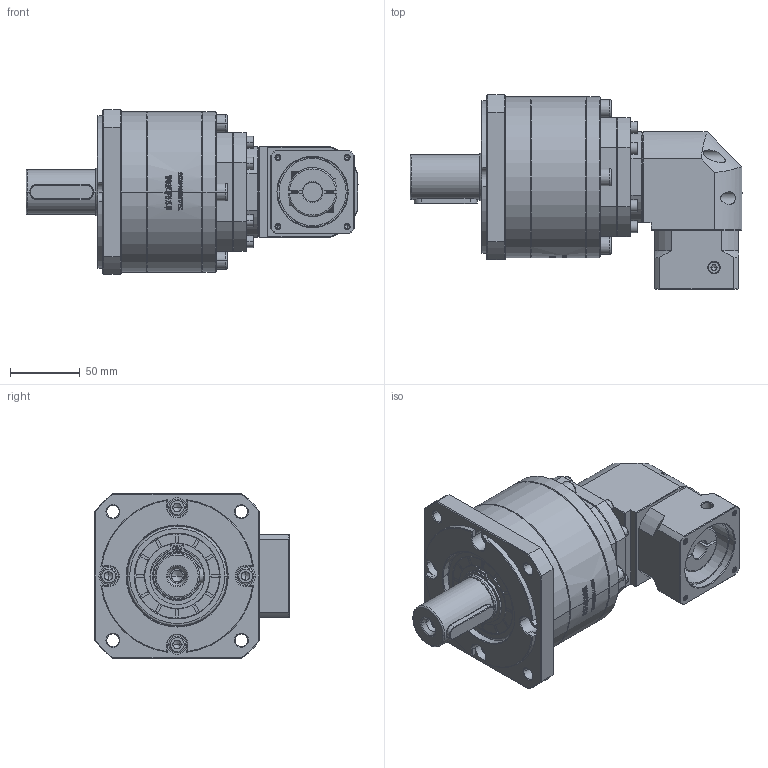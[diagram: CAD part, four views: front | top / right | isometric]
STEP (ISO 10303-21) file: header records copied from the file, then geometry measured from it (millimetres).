
FILE_DESCRIPTION (( 'STEP AP214' ), '1' );
FILE_NAME ('ZFR120A-D32-L3-14-50-70-M4.step', '2023-03-08T14:54:29', ( '' ), ( 'Microsoft' ), 'SwSTEP 2.0', 'SolidWorks 2016', '' );
FILE_SCHEMA (( 'AUTOMOTIVE_DESIGN' ));
Length unit declared in the file: millimetre
Products named in the file (1): ZFR120A-D32-L3-14-50-70-M4
Bounding box: 237.5 x 139.2 x 118 mm (x, y, z)
Volume: 1482709.8 mm3; surface area: 139758.4 mm2
Topology: 6 solids, 6 shells, 3036 faces, 8037 edges, 5157 vertices
Faces by surface type: plane 1595, bspline 625, cylinder 456, cone 347, torus 13
Entity records: 160120 total; most frequent: CARTESIAN_POINT 57411, ORIENTED_EDGE 15966, DIRECTION 11832, EDGE_CURVE 7983, VERTEX_POINT 5157, VECTOR 4992, LINE 4992, AXIS2_PLACEMENT_3D 3420
